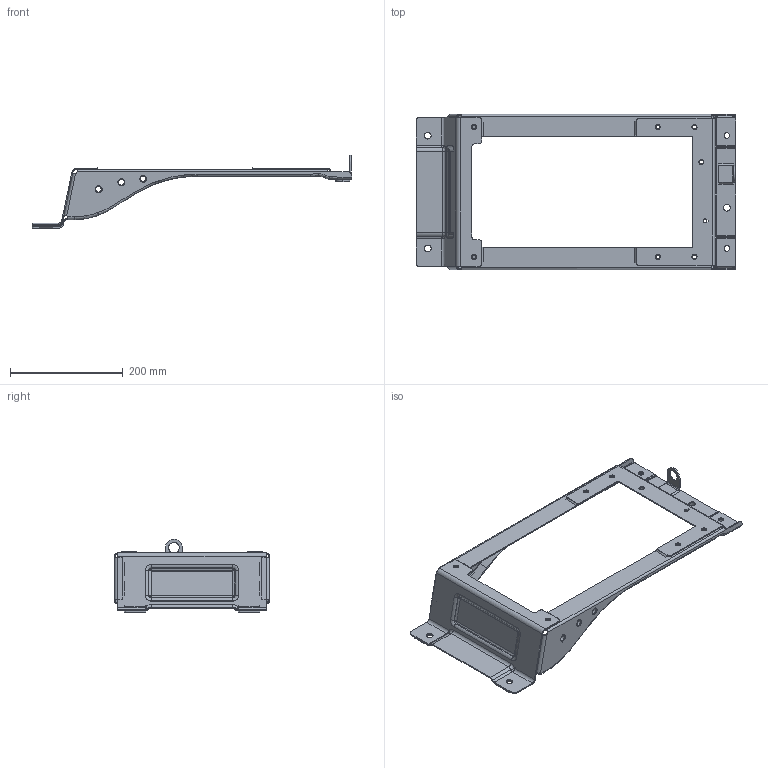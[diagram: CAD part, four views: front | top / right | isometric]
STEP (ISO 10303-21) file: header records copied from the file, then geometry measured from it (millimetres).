
FILE_DESCRIPTION(('CATIA V5 STEP Exchange'),'2;1');
FILE_NAME('F:\福田A6\1-数据\6-冻结数据\第九批\设变\静电导线设变\SHT0015987 中宽车底部支架焊接总成\改后数据\SHT0015987-20241101.stp','2024-11-01T06:50:36+00:00',('none'),('none'),'CATIA Version 5 Release 20 GA (IN-10)','CATIA V5 STEP AP203','none');
FILE_SCHEMA(('CONFIG_CONTROL_DESIGN'));
Length unit declared in the file: millimetre
Products named in the file (1): SHT0015987
Bounding box: 565.39 x 274.99 x 129.9 mm (x, y, z)
Volume: 351937 mm3; surface area: 364856.5 mm2
Topology: 40 solids, 40 shells, 1015 faces, 2696 edges, 1755 vertices
Faces by surface type: plane 430, cylinder 265, bspline 154, cone 85, torus 53, sphere 28
Entity records: 37709 total; most frequent: CARTESIAN_POINT 15048, ORIENTED_EDGE 5336, DIRECTION 3346, EDGE_CURVE 2668, VERTEX_POINT 1755, AXIS2_PLACEMENT_3D 1317, VECTOR 1242, LINE 1242
